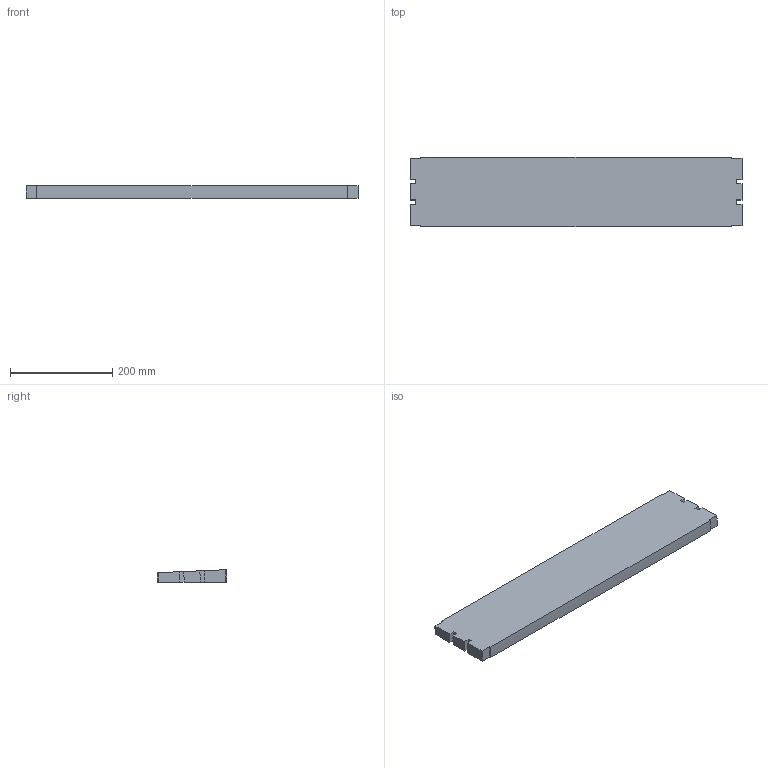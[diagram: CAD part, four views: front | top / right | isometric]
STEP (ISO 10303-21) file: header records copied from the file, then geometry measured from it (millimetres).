
FILE_DESCRIPTION (( 'STEP AP214' ), '1' );
FILE_NAME ('02.150V02.650.N FS-650-MTC-150 Bocht verticaal 2,5°.STEP', '2013-03-29T13:23:22', ( 'Gebruiker' ), ( '' ), 'SwSTEP 2.0', 'SolidWorks 2012', '' );
FILE_SCHEMA (( 'AUTOMOTIVE_DESIGN' ));
Length unit declared in the file: millimetre
Products named in the file (1): 02.150V02.650.N FS-650-MTC-150 Bocht verticaal 2,5°
Bounding box: 650.5 x 136.41 x 24.78 mm (x, y, z)
Volume: 1917331.4 mm3; surface area: 212005.4 mm2
Topology: 1 solids, 1 shells, 30 faces, 84 edges, 56 vertices
Faces by surface type: plane 16, cylinder 14
Entity records: 1010 total; most frequent: DIRECTION 174, CARTESIAN_POINT 171, ORIENTED_EDGE 168, EDGE_CURVE 84, AXIS2_PLACEMENT_3D 59, LINE 56, VECTOR 56, VERTEX_POINT 56
